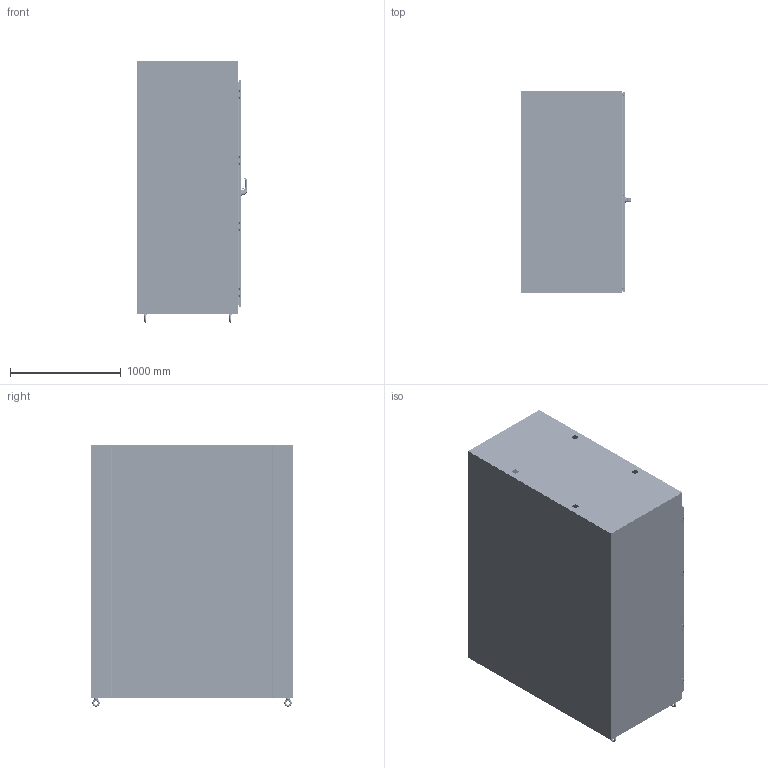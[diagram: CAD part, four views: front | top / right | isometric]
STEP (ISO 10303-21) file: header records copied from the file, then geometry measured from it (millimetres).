
FILE_DESCRIPTION((''),'2;1');
FILE_NAME('MODEL-245_ASM','2024-06-04T13:59:57',('johnh'),('SAGINAW CONTROL & ENGINEERING'),'CREO PARAMETRIC BY PTC INC, 2021284','CREO PARAMETRIC BY PTC INC, 2021284','');
FILE_SCHEMA(('AUTOMOTIVE_DESIGN { 1 0 10303 214 1 1 1 1 }'));
Length unit declared in the file: inch
Products named in the file (64): MODEL-245-L-SD; MODEL-245-TP; MODEL-245-R-SD; MODEL-245-BTM; MODEL-245-BCK; MODEL-245-MSTR; 100837; 111267; 100882; 100955_SCREW_MTG; 100955_PADLOCK_CATCH; 100955_SCREW_LARGE; 100955_INSERT_SHAFT; 100955_INSERT_PKH; 100955_GASKET; 100955_O-RING; 100955_BASE; 100955_SPRING; 100955_HANDLE; 100955_CAM_SHAFT; 100955_HANDLE_ASM; 100955_CAM_ADAPTER; 100955_EARTH_NUT; 100955_FLANGE_NUT; 100955_CAM_NUT; 100955_KEY_INSERT; 100955_SPRING_CAM; 100955_TORSION_SPRING; 100955_SCREW_INSERT; 100955_ASM; 102236; 100030; 102236_ASM; MODEL-245-ROD-UPR; 128146; 128145; 128144; 102482; MODEL-245-ROD-UPR_ASM; 128143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
Assembly tree (153 placements, depth 5):
  MODEL-245_ASM
    MODEL-245-L-SD
    MODEL-245-TP
    MODEL-245-R-SD
    MODEL-245-BTM
    MODEL-245-BCK
    MODEL-245-MASTER-DR-ASSY_ASM
      MODEL-245-MSTR
      100837  x5
      111267
      100882  x12
      100955_ASM
        100955_SCREW_MTG
        100955_PADLOCK_CATCH
        100955_SCREW_LARGE  x2
        100955_INSERT_SHAFT
        100955_INSERT_PKH
        100955_GASKET
        100955_O-RING
        100955_BASE
        100955_SPRING
        100955_HANDLE_ASM
          100955_HANDLE
          100955_CAM_SHAFT
        100955_CAM_ADAPTER
        100955_EARTH_NUT
        100955_FLANGE_NUT
        100955_CAM_NUT
        100955_KEY_INSERT
        100955_SPRING_CAM
        100955_TORSION_SPRING
        100955_SCREW_INSERT
      102236_ASM
        102236
        100030  x2
      MODEL-245-ROD-UPR_ASM
        MODEL-245-ROD-UPR
        128146
        128145
        128144
        102482  x2
      128143  x2
      112504  x2
      MODEL-245-ROD-LWR_ASM
        MODEL-245-ROD-LWR
        128146
        128145
        128144
        102482  x2
      MODEL-245-PR-GSKT-M
      128257_ASM  x4
        128257
      126393  x4
      102483  x4
      101369_ASM  x4
        101369
        101369-STUD
      101221  x4
    MODEL-245-SLAVE-DR-ASSY_ASM
      MODEL-245-SLV
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Bounding box: 992.65 x 1828.8 x 2360.8 mm (x, y, z)
Volume: 48504883.9 mm3; surface area: 36263483.9 mm2
Topology: 175 solids, 175 shells, 17393 faces, 45328 edges, 28413 vertices
Faces by surface type: plane 6172, cylinder 4825, bspline 4276, torus 1023, cone 777, sphere 290, extrusion 30
Entity records: 401316 total; most frequent: CARTESIAN_POINT 154314, ORIENTED_EDGE 36784, DIRECTION 33949, PRESENTATION_STYLE_ASSIGNMENT 20095, STYLED_ITEM 20090, CURVE_STYLE 18392, EDGE_CURVE 18392, AXIS2_PLACEMENT_3D 12731
